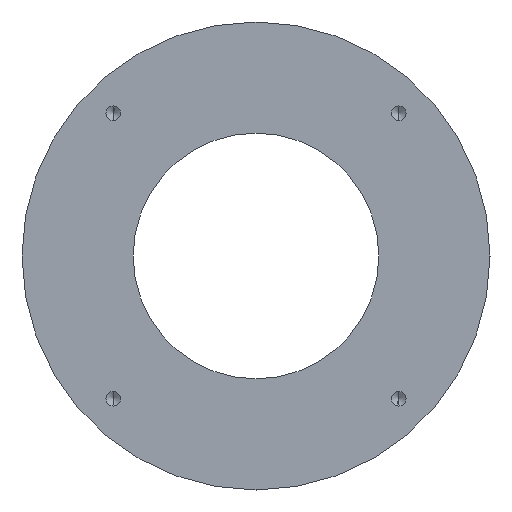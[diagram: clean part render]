
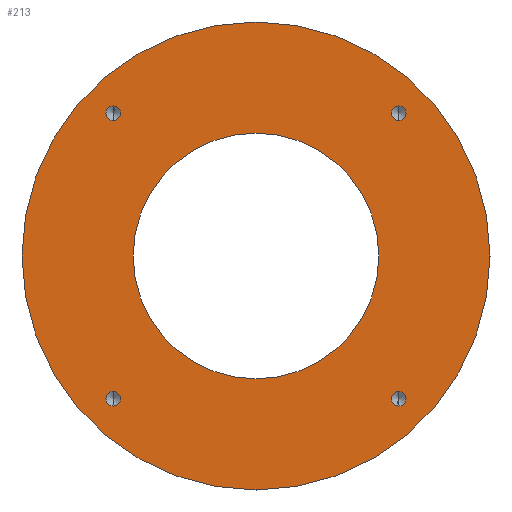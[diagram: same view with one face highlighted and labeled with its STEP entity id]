
A CAD part, front view. The second image highlights one B-rep face of the part: STEP entity #213.
In plain terms, the highlighted planar face has unit normal (0, -1, 0).
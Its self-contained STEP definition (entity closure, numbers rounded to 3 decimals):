
#19 = CARTESIAN_POINT ( 'NONE',  ( 24.395, 4.147, -24.395 ) ) ;
#30 = VERTEX_POINT ( 'NONE', #1278 ) ;
#36 = CARTESIAN_POINT ( 'NONE',  ( 0., 4.147, 0. ) ) ;
#45 = CIRCLE ( 'NONE', #640, 21. ) ;
#56 = AXIS2_PLACEMENT_3D ( 'NONE', #1540, #994, #881 ) ;
#74 = CARTESIAN_POINT ( 'NONE',  ( 0., 4.147, -40. ) ) ;
#105 = VERTEX_POINT ( 'NONE', #580 ) ;
#121 = DIRECTION ( 'NONE',  ( 0., -1., 0. ) ) ;
#148 = FACE_BOUND ( 'NONE', #1504, .T. ) ;
#156 = DIRECTION ( 'NONE',  ( 0., 0., -1. ) ) ;
#192 = PLANE ( 'NONE',  #1025 ) ;
#196 = CARTESIAN_POINT ( 'NONE',  ( 40., 4.147, 0. ) ) ;
#213 = ADVANCED_FACE ( 'NONE', ( #375, #148, #415, #761, #782, #1488 ), #192, .F. ) ;
#216 = DIRECTION ( 'NONE',  ( 0., 1., 0. ) ) ;
#222 = VERTEX_POINT ( 'NONE', #74 ) ;
#253 = DIRECTION ( 'NONE',  ( 0., 0., -1. ) ) ;
#255 = CARTESIAN_POINT ( 'NONE',  ( -24.395, 4.147, -24.395 ) ) ;
#259 = DIRECTION ( 'NONE',  ( 0., 1., 0. ) ) ;
#262 = DIRECTION ( 'NONE',  ( 0., 0., -1. ) ) ;
#280 = CARTESIAN_POINT ( 'NONE',  ( -24.395, 4.147, 24.395 ) ) ;
#282 = VERTEX_POINT ( 'NONE', #1653 ) ;
#291 = CARTESIAN_POINT ( 'NONE',  ( 0., 4.147, -21. ) ) ;
#333 = ORIENTED_EDGE ( 'NONE', *, *, #1400, .F. ) ;
#334 = DIRECTION ( 'NONE',  ( 0., 0., 1. ) ) ;
#340 = DIRECTION ( 'NONE',  ( 0., 0., -1. ) ) ;
#344 = VERTEX_POINT ( 'NONE', #1007 ) ;
#375 = FACE_BOUND ( 'NONE', #1163, .T. ) ;
#380 = VERTEX_POINT ( 'NONE', #755 ) ;
#384 = DIRECTION ( 'NONE',  ( 0., -1., 0. ) ) ;
#392 = AXIS2_PLACEMENT_3D ( 'NONE', #1050, #1214, #1458 ) ;
#408 = DIRECTION ( 'NONE',  ( 0., 1., 0. ) ) ;
#415 = FACE_BOUND ( 'NONE', #1593, .T. ) ;
#445 = EDGE_CURVE ( 'NONE', #661, #504, #1173, .T. ) ;
#446 = ORIENTED_EDGE ( 'NONE', *, *, #1177, .F. ) ;
#448 = DIRECTION ( 'NONE',  ( 0., 1., 0. ) ) ;
#477 = EDGE_CURVE ( 'NONE', #946, #344, #1474, .T. ) ;
#490 = EDGE_CURVE ( 'NONE', #1040, #802, #1268, .T. ) ;
#504 = VERTEX_POINT ( 'NONE', #1077 ) ;
#508 = EDGE_CURVE ( 'NONE', #30, #222, #1665, .T. ) ;
#525 = DIRECTION ( 'NONE',  ( 0., -1., 0. ) ) ;
#533 = ORIENTED_EDGE ( 'NONE', *, *, #477, .F. ) ;
#535 = EDGE_CURVE ( 'NONE', #380, #282, #899, .T. ) ;
#580 = CARTESIAN_POINT ( 'NONE',  ( 24.395, 4.147, 25.645 ) ) ;
#598 = CARTESIAN_POINT ( 'NONE',  ( 0., 4.147, 0. ) ) ;
#615 = ORIENTED_EDGE ( 'NONE', *, *, #716, .F. ) ;
#640 = AXIS2_PLACEMENT_3D ( 'NONE', #598, #448, #987 ) ;
#651 = AXIS2_PLACEMENT_3D ( 'NONE', #1185, #525, #262 ) ;
#653 = CARTESIAN_POINT ( 'NONE',  ( -24.395, 4.147, 24.395 ) ) ;
#661 = VERTEX_POINT ( 'NONE', #694 ) ;
#693 = ORIENTED_EDGE ( 'NONE', *, *, #535, .F. ) ;
#694 = CARTESIAN_POINT ( 'NONE',  ( -24.395, 4.147, 25.645 ) ) ;
#695 = CIRCLE ( 'NONE', #874, 40. ) ;
#716 = EDGE_CURVE ( 'NONE', #504, #661, #1292, .T. ) ;
#721 = DIRECTION ( 'NONE',  ( 0., 0., 1. ) ) ;
#735 = DIRECTION ( 'NONE',  ( 0., -1., 0. ) ) ;
#749 = DIRECTION ( 'NONE',  ( 0., 0., 1. ) ) ;
#755 = CARTESIAN_POINT ( 'NONE',  ( 24.395, 4.147, -25.645 ) ) ;
#761 = FACE_BOUND ( 'NONE', #1572, .T. ) ;
#782 = FACE_OUTER_BOUND ( 'NONE', #1371, .T. ) ;
#802 = VERTEX_POINT ( 'NONE', #1548 ) ;
#848 = CARTESIAN_POINT ( 'NONE',  ( 24.395, 4.147, 24.395 ) ) ;
#849 = CARTESIAN_POINT ( 'NONE',  ( 0., 4.147, 0. ) ) ;
#874 = AXIS2_PLACEMENT_3D ( 'NONE', #849, #1139, #721 ) ;
#881 = DIRECTION ( 'NONE',  ( 0., 0., -1. ) ) ;
#899 = CIRCLE ( 'NONE', #392, 1.25 ) ;
#904 = VERTEX_POINT ( 'NONE', #1598 ) ;
#944 = DIRECTION ( 'NONE',  ( 0., 0., 1. ) ) ;
#946 = VERTEX_POINT ( 'NONE', #1362 ) ;
#953 = ORIENTED_EDGE ( 'NONE', *, *, #490, .T. ) ;
#987 = DIRECTION ( 'NONE',  ( 0., 0., 1. ) ) ;
#988 = EDGE_CURVE ( 'NONE', #222, #30, #695, .T. ) ;
#994 = DIRECTION ( 'NONE',  ( 0., -1., 0. ) ) ;
#1007 = CARTESIAN_POINT ( 'NONE',  ( -24.395, 4.147, -23.145 ) ) ;
#1020 = DIRECTION ( 'NONE',  ( 0., 0., -1. ) ) ;
#1025 = AXIS2_PLACEMENT_3D ( 'NONE', #196, #216, #334 ) ;
#1040 = VERTEX_POINT ( 'NONE', #291 ) ;
#1044 = EDGE_CURVE ( 'NONE', #282, #380, #1666, .T. ) ;
#1045 = DIRECTION ( 'NONE',  ( 0., 0., -1. ) ) ;
#1050 = CARTESIAN_POINT ( 'NONE',  ( 24.395, 4.147, -24.395 ) ) ;
#1058 = DIRECTION ( 'NONE',  ( 0., -1., 0. ) ) ;
#1077 = CARTESIAN_POINT ( 'NONE',  ( -24.395, 4.147, 23.145 ) ) ;
#1109 = AXIS2_PLACEMENT_3D ( 'NONE', #255, #384, #1020 ) ;
#1113 = AXIS2_PLACEMENT_3D ( 'NONE', #36, #408, #944 ) ;
#1134 = ORIENTED_EDGE ( 'NONE', *, *, #1044, .F. ) ;
#1138 = AXIS2_PLACEMENT_3D ( 'NONE', #19, #1058, #156 ) ;
#1139 = DIRECTION ( 'NONE',  ( 0., 1., 0. ) ) ;
#1163 = EDGE_LOOP ( 'NONE', ( #333, #446 ) ) ;
#1173 = CIRCLE ( 'NONE', #1328, 1.25 ) ;
#1176 = ORIENTED_EDGE ( 'NONE', *, *, #988, .F. ) ;
#1177 = EDGE_CURVE ( 'NONE', #105, #904, #1664, .T. ) ;
#1185 = CARTESIAN_POINT ( 'NONE',  ( -24.395, 4.147, -24.395 ) ) ;
#1202 = DIRECTION ( 'NONE',  ( 0., -1., 0. ) ) ;
#1214 = DIRECTION ( 'NONE',  ( 0., -1., 0. ) ) ;
#1249 = CIRCLE ( 'NONE', #1460, 1.25 ) ;
#1268 = CIRCLE ( 'NONE', #1450, 21. ) ;
#1269 = ORIENTED_EDGE ( 'NONE', *, *, #508, .F. ) ;
#1274 = ORIENTED_EDGE ( 'NONE', *, *, #1358, .F. ) ;
#1278 = CARTESIAN_POINT ( 'NONE',  ( 0., 4.147, 40. ) ) ;
#1292 = CIRCLE ( 'NONE', #1382, 1.25 ) ;
#1328 = AXIS2_PLACEMENT_3D ( 'NONE', #280, #1202, #1045 ) ;
#1358 = EDGE_CURVE ( 'NONE', #344, #946, #1507, .T. ) ;
#1362 = CARTESIAN_POINT ( 'NONE',  ( -24.395, 4.147, -25.645 ) ) ;
#1371 = EDGE_LOOP ( 'NONE', ( #1269, #1176 ) ) ;
#1382 = AXIS2_PLACEMENT_3D ( 'NONE', #653, #121, #253 ) ;
#1385 = CARTESIAN_POINT ( 'NONE',  ( 0., 4.147, 0. ) ) ;
#1400 = EDGE_CURVE ( 'NONE', #904, #105, #1249, .T. ) ;
#1414 = EDGE_LOOP ( 'NONE', ( #1622, #953 ) ) ;
#1445 = EDGE_CURVE ( 'NONE', #802, #1040, #45, .T. ) ;
#1450 = AXIS2_PLACEMENT_3D ( 'NONE', #1385, #259, #749 ) ;
#1458 = DIRECTION ( 'NONE',  ( 0., 0., -1. ) ) ;
#1460 = AXIS2_PLACEMENT_3D ( 'NONE', #848, #735, #340 ) ;
#1474 = CIRCLE ( 'NONE', #651, 1.25 ) ;
#1488 = FACE_BOUND ( 'NONE', #1414, .T. ) ;
#1504 = EDGE_LOOP ( 'NONE', ( #693, #1134 ) ) ;
#1507 = CIRCLE ( 'NONE', #1109, 1.25 ) ;
#1540 = CARTESIAN_POINT ( 'NONE',  ( 24.395, 4.147, 24.395 ) ) ;
#1548 = CARTESIAN_POINT ( 'NONE',  ( 0., 4.147, 21. ) ) ;
#1572 = EDGE_LOOP ( 'NONE', ( #615, #1591 ) ) ;
#1591 = ORIENTED_EDGE ( 'NONE', *, *, #445, .F. ) ;
#1593 = EDGE_LOOP ( 'NONE', ( #533, #1274 ) ) ;
#1598 = CARTESIAN_POINT ( 'NONE',  ( 24.395, 4.147, 23.145 ) ) ;
#1622 = ORIENTED_EDGE ( 'NONE', *, *, #1445, .T. ) ;
#1653 = CARTESIAN_POINT ( 'NONE',  ( 24.395, 4.147, -23.145 ) ) ;
#1664 = CIRCLE ( 'NONE', #56, 1.25 ) ;
#1665 = CIRCLE ( 'NONE', #1113, 40. ) ;
#1666 = CIRCLE ( 'NONE', #1138, 1.25 ) ;
